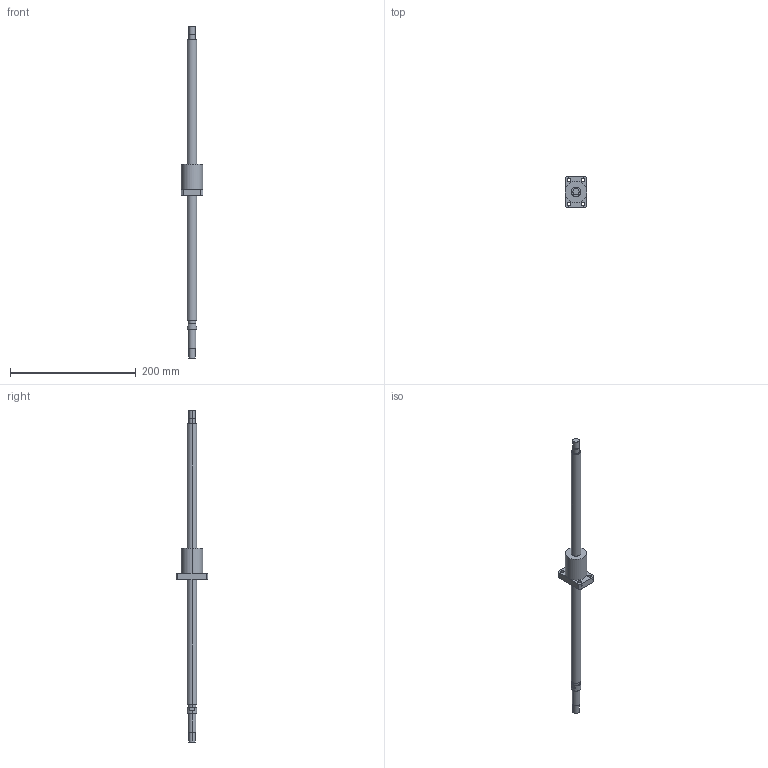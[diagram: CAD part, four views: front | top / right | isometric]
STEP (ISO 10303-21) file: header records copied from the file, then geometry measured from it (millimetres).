
FILE_DESCRIPTION((''),'2;1');
FILE_NAME('R15-10K3-FSC-439-521','2008-03-28T',('mahdi'),(''),'PRO/ENGINEER BY PARAMETRIC TECHNOLOGY CORPORATION, 2005070','PRO/ENGINEER BY PARAMETRIC TECHNOLOGY CORPORATION, 2005070','');
FILE_SCHEMA(('CONFIG_CONTROL_DESIGN'));
Length unit declared in the file: millimetre
Products named in the file (1): R15-10K3-FSC-439-521
Bounding box: 34 x 50 x 527 mm (x, y, z)
Volume: 129530.7 mm3; surface area: 31742 mm2
Topology: 1 solids, 1 shells, 66 faces, 148 edges, 96 vertices
Faces by surface type: cylinder 40, plane 26
Entity records: 1926 total; most frequent: DIRECTION 364, CARTESIAN_POINT 310, ORIENTED_EDGE 296, AXIS2_PLACEMENT_3D 150, EDGE_CURVE 148, VERTEX_POINT 96, EDGE_LOOP 86, CIRCLE 84
